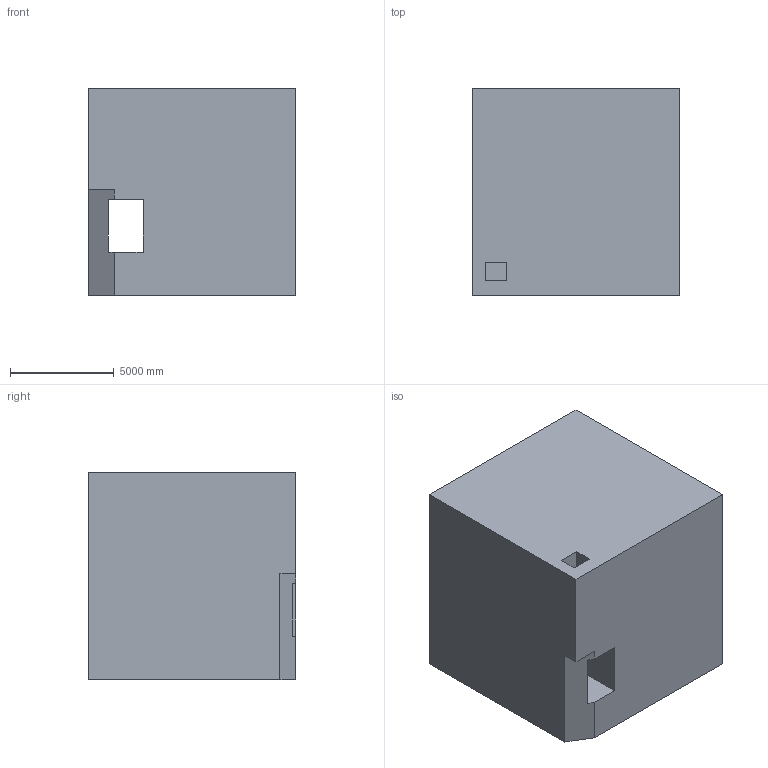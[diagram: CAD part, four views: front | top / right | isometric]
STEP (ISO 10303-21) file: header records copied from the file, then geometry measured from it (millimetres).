
FILE_DESCRIPTION (( 'STEP AP203' ), '1' );
FILE_NAME ('149.STEP', '2022-09-05T15:45:09', ( 'user' ), ( '' ), 'SwSTEP 2.0', 'SolidWorks 2021', '' );
FILE_SCHEMA (( 'CONFIG_CONTROL_DESIGN' ));
Length unit declared in the file: centimetre
Products named in the file (1): 149
Bounding box: 10000 x 10000 x 10000 mm (x, y, z)
Volume: 914669912988.3 mm3; surface area: 749603354 mm2
Topology: 1 solids, 1 shells, 23 faces, 63 edges, 42 vertices
Faces by surface type: plane 19, cylinder 4
Entity records: 974 total; most frequent: CARTESIAN_POINT 298, ORIENTED_EDGE 126, DIRECTION 117, EDGE_CURVE 63, LINE 51, VECTOR 51, VERTEX_POINT 42, AXIS2_PLACEMENT_3D 33
